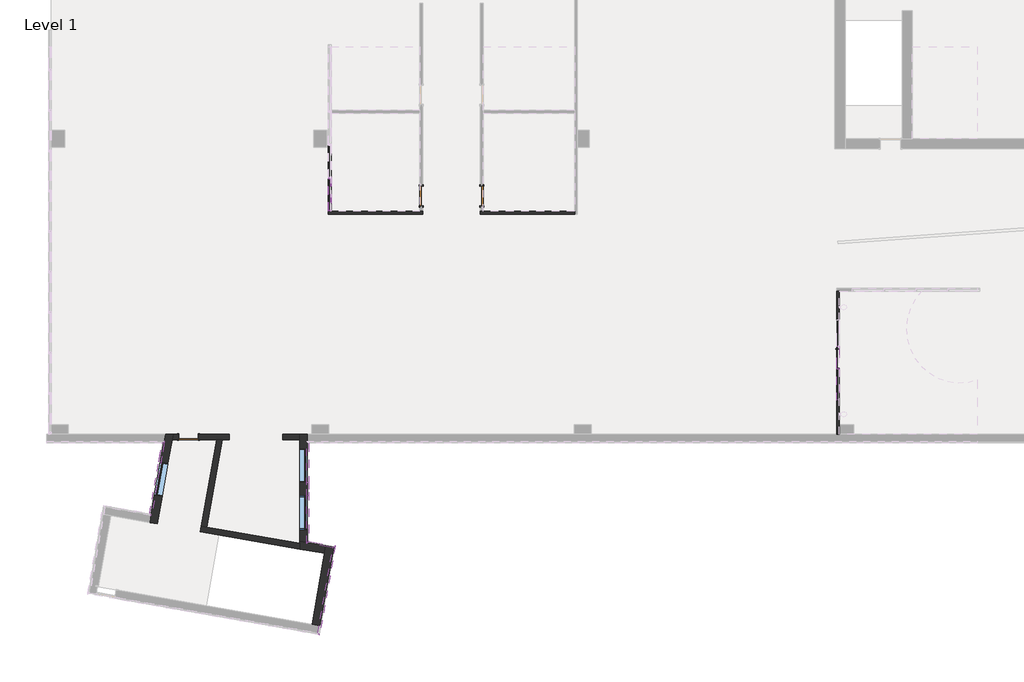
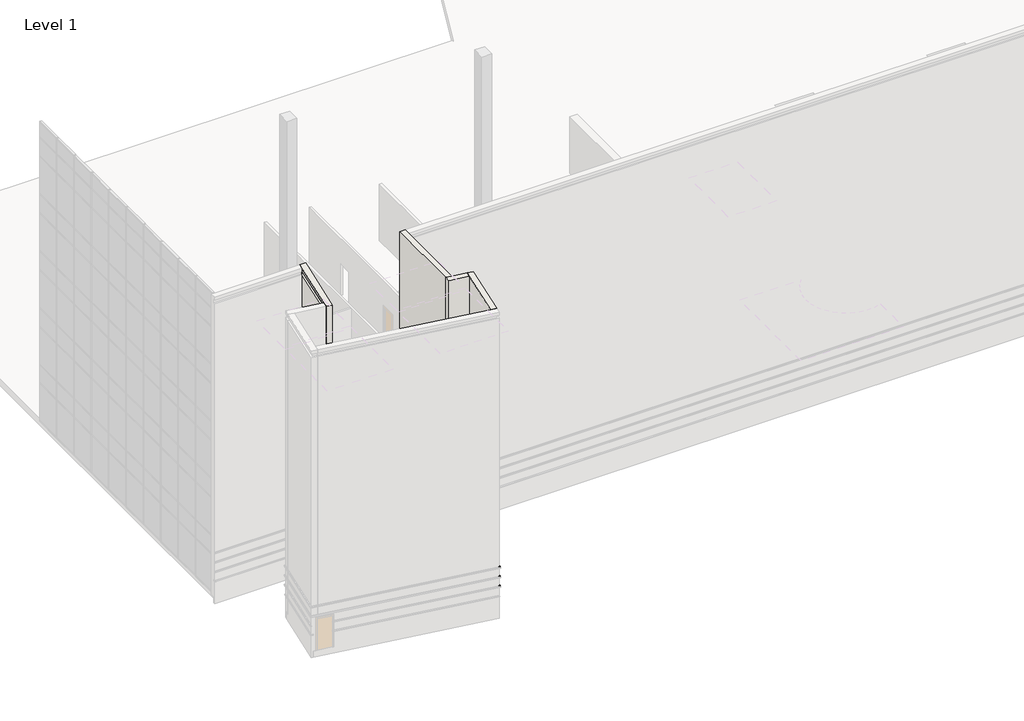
# One storey, part 5 of 23: 13 members, 12 proxies, 10 walls, 4 doors, 4 plates, 3 windows.
"""IFC4 building model written with IfcOpenShell, lengths in millimetres."""

from ifc_helpers import new_model, si_unit, frame, origin, origin_with_axes, place, context, project, spatial, polyline, outline, extrude, faceted_brep, transform, mapped, element, save
from components import curtain_wall_sgl_glass_curtain_wall_sgl_glass_ea362d66, door_ba235de4, door_82111de5, door_92889684, member_9597caa3, member_b2bde9e6, member_131a91bd, member_8e4b14e5, member_6186cc23, member_73a57e35, member_5adcf121, member_e7ed5742, member_194437a1, member_a139046c, member_8e09d03a, system_panel_glazed_f771dc8d, system_panel_glazed_1974f2ce, system_panel_glazed_aacaee84, system_panel_solid_9531ad7b, window_7a027cf8

model = new_model("IFC4")

# Units and contexts
model_context = context("Model", 3, world=origin())
ifc_project = project(units=[si_unit("LENGTHUNIT", "METRE", prefix="MILLI")], contexts=[model_context])

# Site, building, storey
site = spatial("IfcSite", under=ifc_project)
building = spatial("IfcBuilding", under=site)
storey = spatial("IfcBuildingStorey", under=building, Name="Level 1", Elevation=0.0)

# Proxies
placement = place(None, origin())
element("IfcBuildingElementProxy", 1, Name="Reveals", at=placement, inside=storey, context=model_context, shape_type="SweptSolid", body=[
    extrude(outline(polyline([(-64063.4106191, -30479.1249304), (-63972.7344453, -30495.1135863), (-64135.1020032, -31415.9457657), (-64209.7895211, -31309.2809359), (-64063.4106191, -30479.1249304)])), frame((0.0, 0.0, 1625.6), z_axis=(0.0, 0.0, 1.0), x_axis=(1.0, 0.0, 0.0)), (0.0, 0.0, 1.0), 67.7333333),
    extrude(outline(polyline([(-63652.5265095, -28148.8853492), (-63542.7957974, -28056.8103492), (-63708.0946225, -28994.2665708), (-63798.7707964, -28978.2779148), (-63652.5265095, -28148.8853492)])), frame((0.0, 0.0, 1625.6), z_axis=(0.0, 0.0, 1.0), x_axis=(1.0, 0.0, 0.0)), (0.0, 0.0, 1.0), 67.7333333),
])
element("IfcBuildingElementProxy", 2, Name="Reveals", at=placement, inside=storey, context=model_context, shape_type="SweptSolid", body=[
    extrude(outline(polyline([(-64063.4106191, -30479.1249304), (-63972.7344453, -30495.1135863), (-64135.1020032, -31415.9457657), (-64209.7895211, -31309.2809359), (-64063.4106191, -30479.1249304)])), frame((0.0, 0.0, 2235.2), z_axis=(0.0, 0.0, 1.0), x_axis=(1.0, 0.0, 0.0)), (0.0, 0.0, 1.0), 67.7333333),
    extrude(outline(polyline([(-63652.5265095, -28148.8853492), (-63542.7957974, -28056.8103492), (-63708.0946225, -28994.2665708), (-63798.7707964, -28978.2779148), (-63652.5265095, -28148.8853492)])), frame((0.0, 0.0, 2235.2), z_axis=(0.0, 0.0, 1.0), x_axis=(1.0, 0.0, 0.0)), (0.0, 0.0, 1.0), 67.7333333),
])
element("IfcBuildingElementProxy", 3, Name="Reveals", at=placement, inside=storey, context=model_context, shape_type="SweptSolid", body=[
    extrude(outline(polyline([(-63652.5265095, -28148.8853492), (-63542.7957974, -28056.8103492), (-64135.1020032, -31415.9457657), (-64209.7895211, -31309.2809359), (-63652.5265095, -28148.8853492)])), frame((0.0, 0.0, 2844.8), z_axis=(0.0, 0.0, 1.0), x_axis=(1.0, 0.0, 0.0)), (0.0, 0.0, 1.0), 67.7333333),
])
element("IfcBuildingElementProxy", 4, Name="Reveals", at=placement, inside=storey, context=model_context, shape_type="SweptSolid", body=[
    extrude(outline(polyline([(-56525.6460513, -36823.1362989), (-56600.3335692, -36716.4714691), (-55921.0913575, -32864.2974624), (-55814.4265276, -32789.6099445), (-56525.6460513, -36823.1362989)])), frame((0.0, 0.0, 1625.6), z_axis=(0.0, 0.0, 1.0), x_axis=(1.0, 0.0, 0.0)), (0.0, 0.0, 1.0), 67.7333333),
])
element("IfcBuildingElementProxy", 5, Name="Reveals", at=placement, inside=storey, context=model_context, shape_type="SweptSolid", body=[
    extrude(outline(polyline([(-56525.6460513, -36823.1362989), (-56600.3335692, -36716.4714691), (-55921.0913575, -32864.2974624), (-55814.4265276, -32789.6099445), (-56525.6460513, -36823.1362989)])), frame((0.0, 0.0, 2235.2), z_axis=(0.0, 0.0, 1.0), x_axis=(1.0, 0.0, 0.0)), (0.0, 0.0, 1.0), 67.7333333),
])
element("IfcBuildingElementProxy", 6, Name="Reveals", at=placement, inside=storey, context=model_context, shape_type="SweptSolid", body=[
    extrude(outline(polyline([(-56525.6460513, -36823.1362989), (-56600.3335692, -36716.4714691), (-55921.0913575, -32864.2974624), (-55814.4265276, -32789.6099445), (-56525.6460513, -36823.1362989)])), frame((0.0, 0.0, 2844.8), z_axis=(0.0, 0.0, 1.0), x_axis=(1.0, 0.0, 0.0)), (0.0, 0.0, 1.0), 67.7333333),
])
element("IfcBuildingElementProxy", 7, Name="Reveals", at=placement, inside=storey, context=model_context, shape_type="SweptSolid", body=[
    extrude(outline(polyline([(-55814.4265276, -32789.6099445), (-55921.0913575, -32864.2974624), (-57101.4875003, -32656.1617745), (-57009.4125003, -32578.9016759), (-55814.4265276, -32789.6099445)])), frame((0.0, 0.0, 1625.6), z_axis=(0.0, 0.0, 1.0), x_axis=(1.0, 0.0, 0.0)), (0.0, 0.0, 1.0), 67.7333333),
])
element("IfcBuildingElementProxy", 8, Name="Reveals", at=placement, inside=storey, context=model_context, shape_type="SweptSolid", body=[
    extrude(outline(polyline([(-55814.4265276, -32789.6099445), (-55921.0913575, -32864.2974624), (-57101.4875003, -32656.1617745), (-57009.4125003, -32578.9016759), (-55814.4265276, -32789.6099445)])), frame((0.0, 0.0, 2235.2), z_axis=(0.0, 0.0, 1.0), x_axis=(1.0, 0.0, 0.0)), (0.0, 0.0, 1.0), 67.7333333),
])
element("IfcBuildingElementProxy", 9, Name="Reveals", at=placement, inside=storey, context=model_context, shape_type="SweptSolid", body=[
    extrude(outline(polyline([(-55814.4265276, -32789.6099445), (-55921.0913575, -32864.2974624), (-57101.4875003, -32656.1617745), (-57009.4125003, -32578.9016759), (-55814.4265276, -32789.6099445)])), frame((0.0, 0.0, 2844.8), z_axis=(0.0, 0.0, 1.0), x_axis=(1.0, 0.0, 0.0)), (0.0, 0.0, 1.0), 67.7333333),
])
element("IfcBuildingElementProxy", 10, Name="Reveals", at=placement, inside=storey, context=model_context, shape_type="SweptSolid", body=[
    extrude(outline(polyline([(-57009.4125003, -28391.7728492), (-57101.4875003, -28391.7728492), (-57101.4875003, -28056.8103492), (-57009.4125003, -28148.8853492), (-57009.4125003, -28391.7728492)])), frame((0.0, 0.0, 1625.6), z_axis=(0.0, 0.0, 1.0), x_axis=(1.0, 0.0, 0.0)), (0.0, 0.0, 1.0), 67.7333333),
    extrude(outline(polyline([(-57009.4125003, -30525.3728492), (-57101.4875003, -30525.3728492), (-57101.4875003, -29915.7728492), (-57009.4125003, -29915.7728492), (-57009.4125003, -30525.3728492)])), frame((0.0, 0.0, 1625.6), z_axis=(0.0, 0.0, 1.0), x_axis=(1.0, 0.0, 0.0)), (0.0, 0.0, 1.0), 67.7333333),
    extrude(outline(polyline([(-57009.4125003, -32578.9016759), (-57101.4875003, -32656.1617745), (-57101.4875003, -32049.3728492), (-57009.4125003, -32049.3728492), (-57009.4125003, -32578.9016759)])), frame((0.0, 0.0, 1625.6), z_axis=(0.0, 0.0, 1.0), x_axis=(1.0, 0.0, 0.0)), (0.0, 0.0, 1.0), 67.7333333),
])
element("IfcBuildingElementProxy", 11, Name="Reveals", at=placement, inside=storey, context=model_context, shape_type="SweptSolid", body=[
    extrude(outline(polyline([(-57009.4125003, -28391.7728492), (-57101.4875003, -28391.7728492), (-57101.4875003, -28056.8103492), (-57009.4125003, -28148.8853492), (-57009.4125003, -28391.7728492)])), frame((0.0, 0.0, 2235.2), z_axis=(0.0, 0.0, 1.0), x_axis=(1.0, 0.0, 0.0)), (0.0, 0.0, 1.0), 67.7333333),
    extrude(outline(polyline([(-57009.4125003, -30525.3728492), (-57101.4875003, -30525.3728492), (-57101.4875003, -29915.7728492), (-57009.4125003, -29915.7728492), (-57009.4125003, -30525.3728492)])), frame((0.0, 0.0, 2235.2), z_axis=(0.0, 0.0, 1.0), x_axis=(1.0, 0.0, 0.0)), (0.0, 0.0, 1.0), 67.7333333),
    extrude(outline(polyline([(-57009.4125003, -32578.9016759), (-57101.4875003, -32656.1617745), (-57101.4875003, -32049.3728492), (-57009.4125003, -32049.3728492), (-57009.4125003, -32578.9016759)])), frame((0.0, 0.0, 2235.2), z_axis=(0.0, 0.0, 1.0), x_axis=(1.0, 0.0, 0.0)), (0.0, 0.0, 1.0), 67.7333333),
])
element("IfcBuildingElementProxy", 12, Name="Reveals", at=placement, inside=storey, context=model_context, shape_type="SweptSolid", body=[
    extrude(outline(polyline([(-57009.4125003, -32578.9016759), (-57101.4875003, -32656.1617745), (-57101.4875003, -28056.8103492), (-57009.4125003, -28148.8853492), (-57009.4125003, -32578.9016759)])), frame((0.0, 0.0, 2844.8), z_axis=(0.0, 0.0, 1.0), x_axis=(1.0, 0.0, 0.0)), (0.0, 0.0, 1.0), 67.7333333),
])

# Doors
curtain_wall_sgl_glass_curtain_wall_sgl_glass_shape = curtain_wall_sgl_glass_curtain_wall_sgl_glass_ea362d66(model_context)
element("IfcDoor", 13, ObjectType="Curtain Wall Sgl Glass : Curtain Wall Sgl Glass", at=placement, inside=storey, context=model_context, shape_type="MappedRepresentation", body=[
    mapped(curtain_wall_sgl_glass_curtain_wall_sgl_glass_shape, transform((-33067.7142212, -24273.7978492, -25.4), x_axis=(0.0, -1.0, 0.0), y_axis=(1.0, 0.0, 0.0), z_axis=(0.0, 0.0, 1.0))),
])
door_shape = door_ba235de4(model_context)
element("IfcDoor", 14, ObjectType="Single-Flush : 34\" x 80\"", at=placement, inside=storey, context=model_context, shape_type="MappedRepresentation", body=[
    mapped(door_shape, transform((-62457.7125003, -27856.7853492, 0.0), x_axis=(-1.0, 0.0, 0.0), y_axis=(0.0, -1.0, 0.0), z_axis=(0.0, 0.0, 1.0))),
])
door_2_shape = door_82111de5(model_context)
element("IfcDoor", 15, ObjectType="Single-Flush : 34\" x 80\"", at=placement, inside=storey, context=model_context, shape_type="MappedRepresentation", body=[
    mapped(door_2_shape, transform((-51923.5856498, -16957.0103492, 0.0), x_axis=(0.0, -1.0, 0.0), y_axis=(1.0, 0.0, 0.0), z_axis=(0.0, 0.0, 1.0))),
])
door_3_shape = door_92889684(model_context)
element("IfcDoor", 16, ObjectType="Single-Flush : 34\" x 80\"", at=placement, inside=storey, context=model_context, shape_type="MappedRepresentation", body=[
    mapped(door_3_shape, transform((-49194.8999355, -16957.0103492, 0.0), x_axis=(0.0, -1.0, 0.0), y_axis=(1.0, 0.0, 0.0), z_axis=(0.0, 0.0, 1.0))),
])

# Members
member_shape = member_9597caa3(model_context)
element("IfcMember", 17, ObjectType="Rectangular Mullion : 2.5\" x 5\" rectangular", at=placement, inside=storey, context=model_context, shape_type="MappedRepresentation", body=[
    mapped(member_shape, transform((-56063.7856498, -16145.6214603, 38.1), x_axis=(0.0, 1.0, 0.0), y_axis=(1.0, 0.0, 0.0), z_axis=(0.0, 0.0, -1.0))),
])
member_2_shape = member_b2bde9e6(model_context)
element("IfcMember", 18, ObjectType="Rectangular Mullion : 2.5\" x 5\" rectangular", at=placement, inside=storey, context=model_context, shape_type="MappedRepresentation", body=[
    mapped(member_2_shape, transform((-56063.7856498, -17655.5103492, 2413.0), x_axis=(0.0, -1.0, 0.0), y_axis=(1.0, 0.0, 0.0), z_axis=(0.0, 0.0, 1.0))),
])
member_3_shape = member_131a91bd(model_context)
element("IfcMember", 19, ObjectType="Rectangular Mullion : 2.5\" x 5\" rectangular", at=placement, inside=storey, context=model_context, shape_type="MappedRepresentation", body=[
    mapped(member_3_shape, transform((-56063.7856498, -16145.6214603, 4673.6), x_axis=(0.0, 0.0, 1.0), y_axis=(1.0, 0.0, 0.0), z_axis=(0.0, 1.0, 0.0))),
])
element("IfcMember", 20, ObjectType="Rectangular Mullion : 2.5\" x 5\" rectangular", at=placement, inside=storey, context=model_context, shape_type="MappedRepresentation", body=[
    mapped(member_3_shape, transform((-56063.7856498, -17655.5103492, -25.4), x_axis=(0.0, 0.0, -1.0), y_axis=(1.0, 0.0, 0.0), z_axis=(0.0, -1.0, 0.0))),
])
element("IfcMember", 21, ObjectType="Rectangular Mullion : 2.5\" x 5\" rectangular", at=placement, inside=storey, context=model_context, shape_type="MappedRepresentation", body=[
    mapped(member_3_shape, transform((-56063.7856498, -16145.6214603, -25.4), x_axis=(0.0, 0.0, -1.0), y_axis=(1.0, 0.0, 0.0), z_axis=(0.0, -1.0, 0.0))),
])
member_4_shape = member_8e4b14e5(model_context)
element("IfcMember", 22, ObjectType="Rectangular Mullion : 2.5\" x 5\" rectangular", at=placement, inside=storey, context=model_context, shape_type="MappedRepresentation", body=[
    mapped(member_4_shape, transform((-56063.7856498, -16145.6214603, 2413.0), x_axis=(0.0, 0.0, 1.0), y_axis=(1.0, 0.0, 0.0), z_axis=(0.0, 1.0, 0.0))),
])
member_5_shape = member_6186cc23(model_context)
element("IfcMember", 23, ObjectType="Rectangular Mullion : 2.5\" x 5\" rectangular", at=placement, inside=storey, context=model_context, shape_type="MappedRepresentation", body=[
    mapped(member_5_shape, transform((-56063.7856498, -16145.6214603, 2444.75), x_axis=(0.0, 1.0, 0.0), y_axis=(1.0, 0.0, 0.0), z_axis=(0.0, 0.0, -1.0))),
])
member_6_shape = member_73a57e35(model_context)
element("IfcMember", 24, ObjectType="Rectangular Mullion : 2.5\" x 5\" rectangular", at=placement, inside=storey, context=model_context, shape_type="MappedRepresentation", body=[
    mapped(member_6_shape, transform((-56063.7856498, -17655.5103492, 4610.1), x_axis=(0.0, -1.0, 0.0), y_axis=(1.0, 0.0, 0.0), z_axis=(0.0, 0.0, 1.0))),
])
member_7_shape = member_5adcf121(model_context)
element("IfcMember", 25, ObjectType="Rectangular Mullion : 2.5\" x 5\" rectangular", at=placement, inside=storey, context=model_context, shape_type="MappedRepresentation", body=[
    mapped(member_7_shape, transform((-33067.7142212, -24781.7978492, 38.1), x_axis=(0.0, 1.0, 0.0), y_axis=(1.0, 0.0, 0.0), z_axis=(0.0, 0.0, -1.0))),
])
member_8_shape = member_e7ed5742(model_context)
element("IfcMember", 26, ObjectType="Rectangular Mullion : 2.5\" x 5\" rectangular", at=placement, inside=storey, context=model_context, shape_type="MappedRepresentation", body=[
    mapped(member_8_shape, transform((-33067.7142212, -26204.1978492, 2349.5), x_axis=(0.0, -1.0, 0.0), y_axis=(1.0, 0.0, 0.0), z_axis=(0.0, 0.0, 1.0))),
])
member_9_shape = member_194437a1(model_context)
element("IfcMember", 27, ObjectType="Rectangular Mullion : 2.5\" x 5\" rectangular", at=placement, inside=storey, context=model_context, shape_type="MappedRepresentation", body=[
    mapped(member_9_shape, transform((-33067.7142212, -24781.7978492, 2413.0), x_axis=(0.0, 0.0, 1.0), y_axis=(1.0, 0.0, 0.0), z_axis=(0.0, 1.0, 0.0))),
])
member_10_shape = member_a139046c(model_context)
element("IfcMember", 28, ObjectType="Rectangular Mullion : 2.5\" x 5\" rectangular", at=placement, inside=storey, context=model_context, shape_type="MappedRepresentation", body=[
    mapped(member_10_shape, transform((-33067.7142212, -26204.1978492, -25.4), x_axis=(0.0, 0.0, -1.0), y_axis=(1.0, 0.0, 0.0), z_axis=(0.0, -1.0, 0.0))),
])
member_11_shape = member_8e09d03a(model_context)
element("IfcMember", 29, ObjectType="Rectangular Mullion : 2.5\" x 5\" rectangular", at=placement, inside=storey, context=model_context, shape_type="MappedRepresentation", body=[
    mapped(member_11_shape, transform((-33067.7142212, -23765.7978492, 2413.0), x_axis=(0.0, 0.0, 1.0), y_axis=(1.0, 0.0, 0.0), z_axis=(0.0, 1.0, 0.0))),
])

# Plates
system_panel_glazed_shape = system_panel_glazed_f771dc8d(model_context)
element("IfcPlate", 30, ObjectType="System Panel : Glazed", at=placement, inside=storey, context=model_context, shape_type="MappedRepresentation", body=[
    mapped(system_panel_glazed_shape, transform((-56063.7856498, -16884.6909048, 38.1), x_axis=(0.0, 1.0, 0.0), y_axis=(-1.0, 0.0, 0.0), z_axis=(0.0, 0.0, 1.0))),
])
system_panel_glazed_2_shape = system_panel_glazed_1974f2ce(model_context)
element("IfcPlate", 31, ObjectType="System Panel : Glazed", at=placement, inside=storey, context=model_context, shape_type="MappedRepresentation", body=[
    mapped(system_panel_glazed_2_shape, transform((-33067.7142212, -23172.0728492, 38.1), x_axis=(0.0, 1.0, 0.0), y_axis=(-1.0, 0.0, 0.0), z_axis=(0.0, 0.0, 1.0))),
])
system_panel_glazed_3_shape = system_panel_glazed_aacaee84(model_context)
element("IfcPlate", 32, ObjectType="System Panel : Glazed", at=placement, inside=storey, context=model_context, shape_type="MappedRepresentation", body=[
    mapped(system_panel_glazed_3_shape, transform((-33067.7142212, -25477.1228492, 38.1), x_axis=(0.0, 1.0, 0.0), y_axis=(-1.0, 0.0, 0.0), z_axis=(0.0, 0.0, 1.0))),
])
system_panel_solid_shape = system_panel_solid_9531ad7b(model_context)
element("IfcPlate", 33, ObjectType="System Panel : Solid", at=placement, inside=storey, context=model_context, shape_type="MappedRepresentation", body=[
    mapped(system_panel_solid_shape, transform((-56063.7856498, -16884.6909048, 2444.75), x_axis=(0.0, 1.0, 0.0), y_axis=(-1.0, 0.0, 0.0), z_axis=(0.0, 0.0, 1.0))),
])

# Walls
element("IfcWall", 34, ObjectType="Core-shaft 10\" Concrete", at=placement, inside=storey, context=model_context, shape_type="Brep", body=[
    faceted_brep([(-62889.5125003, -27729.7853492, 2032.0), (-62889.5125003, -27729.7853492, 0.0), (-63153.0625788, -27729.7853492, 0.0), (-63153.0625788, -27729.7853492, 3657.6), (-57428.5125003, -27729.7853492, 3657.6), (-57428.5125003, -27729.7853492, 0.0), (-58182.8685961, -27729.7853492, 0.0), (-58182.8685961, -27729.7853492, 2438.4), (-60621.2685961, -27729.7853492, 2438.4), (-60621.2685961, -27729.7853492, 0.0), (-62025.9125003, -27729.7853492, 0.0), (-62025.9125003, -27729.7853492, 2032.0), (-63197.8496319, -27983.7853492, 0.0), (-62889.5125003, -27983.7853492, 0.0), (-62889.5125003, -27983.7853492, 2032.0), (-62025.9125003, -27983.7853492, 2032.0), (-62025.9125003, -27983.7853492, 0.0), (-61184.4744387, -27983.7853492, 0.0), (-60926.5560793, -27983.7853492, 0.0), (-60621.2685961, -27983.7853492, 0.0), (-60621.2685961, -27983.7853492, 2438.4), (-58182.8685961, -27983.7853492, 2438.4), (-58182.8685961, -27983.7853492, 0.0), (-57428.5125003, -27983.7853492, 0.0), (-57428.5125003, -27983.7853492, 3657.6), (-60926.5560793, -27983.7853492, 3657.6), (-61184.4744387, -27983.7853492, 3657.6), (-63197.8496319, -27983.7853492, 3657.6)], [[[0, 1, 2, 3, 4, 5, 6, 7, 8, 9, 10, 11]], [[12, 13, 14, 15, 16, 17, 18, 19, 20, 21, 22, 23, 24, 25, 26, 27]], [[5, 23, 22, 6]], [[10, 9, 19, 18, 17, 16]], [[2, 1, 13, 12]], [[4, 3, 27, 26, 25, 24]], [[3, 2, 12, 27]], [[5, 4, 24, 23]], [[14, 13, 1, 0]], [[15, 14, 0, 11]], [[16, 15, 11, 10]], [[7, 21, 20, 8]], [[21, 7, 6, 22]], [[8, 20, 19, 9]]]),
])
element("IfcWall", 35, ObjectType="Core-shaft 10\" Concrete", at=placement, inside=storey, context=model_context, shape_type="Brep", body=[
    faceted_brep([(-61917.1680405, -32139.0972525, 0.0), (-57428.5125003, -32930.5683313, 0.0), (-57428.5125003, -32930.5683313, 3657.6), (-61917.1680405, -32139.0972525, 3657.6), (-61873.0614034, -31888.9560832, 0.0), (-61873.0614034, -31888.9560832, 3657.6), (-61622.9202341, -31933.0627204, 3657.6), (-57428.5125003, -32672.6499719, 3657.6), (-57428.5125003, -32672.6499719, 0.0), (-61622.9202341, -31933.0627204, 0.0)], [[[0, 1, 2, 3]], [[4, 5, 6, 7, 8, 9]], [[1, 0, 4, 9, 8]], [[3, 2, 7, 6, 5]], [[0, 3, 5, 4]], [[2, 1, 8, 7]]]),
])
element("IfcWall", 36, ObjectType="Core-shaft 10\" Concrete", at=placement, inside=storey, context=model_context, shape_type="SweptSolid", body=[
    extrude(outline(polyline([(-60926.5560793, -27983.7853492), (-61622.9202341, -31933.0627204), (-61873.0614034, -31888.9560832), (-61184.4744387, -27983.7853492), (-60926.5560793, -27983.7853492)])), origin_with_axes(), (0.0, 0.0, 1.0), 3657.6),
])
element("IfcWall", 37, ObjectType="Exterior - Brick and CMU on MTL. Stud", at=placement, inside=storey, context=model_context, shape_type="Brep", body=[
    faceted_brep([(-64216.9034154, -31733.5918574, 19304.0), (-64155.7054564, -31386.5209851, 19304.0), (-63573.0663387, -28082.2103492, 19304.0), (-63510.9243025, -27729.7853492, 19304.0), (-63510.9243025, -27729.7853492, 0.0), (-63556.8310319, -27990.1353492, 0.0), (-63556.8310319, -27990.1353492, -406.4), (-63573.0663387, -28082.2103492, -406.4), (-64155.7054564, -31386.5209851, -406.4), (-64171.6941124, -31477.1971589, -406.4), (-64171.6941124, -31477.1971589, 0.0), (-64216.9034154, -31733.5918574, 0.0), (-63997.7485622, -30490.7029226, 914.4), (-63733.1087394, -28989.855907, 914.4), (-63733.1087394, -28989.855907, 1016.0), (-63573.0663387, -28082.2103492, 1016.0), (-63556.8310319, -27990.1353492, 1016.0), (-63556.8310319, -27990.1353492, 1085.85), (-63573.0663387, -28082.2103492, 1085.85), (-63733.1087394, -28989.855907, 1085.85), (-63733.1087394, -28989.855907, 1625.6), (-63573.0663387, -28082.2103492, 1625.6), (-63568.5876334, -28056.8103492, 1625.6), (-63568.5876334, -28056.8103492, 1693.3333333), (-63573.0663387, -28082.2103492, 1693.3333333), (-63733.1087394, -28989.855907, 1693.3333333), (-63733.1087394, -28989.855907, 2235.2), (-63573.0663387, -28082.2103492, 2235.2), (-63568.5876334, -28056.8103492, 2235.2), (-63568.5876334, -28056.8103492, 2302.9333333), (-63573.0663387, -28082.2103492, 2302.9333333), (-63733.1087394, -28989.855907, 2302.9333333), (-63733.1087394, -28989.855907, 2286.0), (-63997.7485622, -30490.7029226, 2286.0), (-63997.7485622, -30490.7029226, 2302.9333333), (-64155.7054564, -31386.5209851, 2302.9333333), (-64160.1161201, -31411.535102, 2302.9333333), (-64160.1161201, -31411.535102, 2235.2), (-64155.7054564, -31386.5209851, 2235.2), (-63997.7485622, -30490.7029226, 2235.2), (-63997.7485622, -30490.7029226, 1693.3333333), (-64155.7054564, -31386.5209851, 1693.3333333), (-64160.1161201, -31411.535102, 1693.3333333), (-64160.1161201, -31411.535102, 1625.6), (-64155.7054564, -31386.5209851, 1625.6), (-63997.7485622, -30490.7029226, 1625.6), (-63997.7485622, -30490.7029226, 1085.85), (-64155.7054564, -31386.5209851, 1085.85), (-64171.6941124, -31477.1971589, 1085.85), (-64171.6941124, -31477.1971589, 1016.0), (-64155.7054564, -31386.5209851, 1016.0), (-63997.7485622, -30490.7029226, 1016.0), (-64160.1161201, -31411.535102, 2912.5333333), (-64160.1161201, -31411.535102, 2844.8), (-64155.7054564, -31386.5209851, 2844.8), (-63573.0663387, -28082.2103492, 2844.8), (-63568.5876334, -28056.8103492, 2844.8), (-63568.5876334, -28056.8103492, 2912.5333333), (-63573.0663387, -28082.2103492, 2912.5333333), (-64155.7054564, -31386.5209851, 2912.5333333), (-64171.6941124, -31477.1971589, 19100.8), (-64171.6941124, -31477.1971589, 18897.6), (-64155.7054564, -31386.5209851, 18897.6), (-63573.0663387, -28082.2103492, 18897.6), (-63556.8310319, -27990.1353492, 18897.6), (-63556.8310319, -27990.1353492, 19100.8), (-63573.0663387, -28082.2103492, 19100.8), (-64155.7054564, -31386.5209851, 19100.8), (-63869.8325431, -31794.7898164, 0.0), (-63197.8496319, -27983.7853492, 0.0), (-63153.0625788, -27729.7853492, 0.0), (-63153.0625788, -27729.7853492, 3657.6), (-63153.0625788, -27729.7853492, 19304.0), (-63869.8325431, -31794.7898164, 19304.0), (-63386.0378671, -29051.0538661, 2286.0), (-63386.0378671, -29051.0538661, 914.4), (-63650.6776898, -30551.9008816, 914.4), (-63650.6776898, -30551.9008816, 2286.0), (-63708.0946225, -28994.2665708, 2286.0), (-63708.0946225, -28994.2665708, 2235.2), (-63708.0946225, -28994.2665708, 1693.3333333), (-63708.0946225, -28994.2665708, 1625.6), (-63642.4325656, -29005.844563, 1085.85), (-63642.4325656, -29005.844563, 1016.0), (-63907.0723883, -30506.6915786, 1016.0), (-63907.0723883, -30506.6915786, 1085.85), (-63972.7344453, -30495.1135863, 1625.6), (-63972.7344453, -30495.1135863, 1693.3333333), (-63972.7344453, -30495.1135863, 2235.2), (-63972.7344453, -30495.1135863, 2286.0), (-64081.0179385, -31493.1858149, 0.0), (-63463.3356266, -27990.1353492, 0.0), (-64135.1020032, -31415.9457657, 1693.3333333), (-64135.1020032, -31415.9457657, 1625.6), (-63542.7957974, -28056.8103492, 1693.3333333), (-63542.7957974, -28056.8103492, 1625.6), (-63972.7344453, -30495.1135863, 2302.9333333), (-64135.1020032, -31415.9457657, 2302.9333333), (-64135.1020032, -31415.9457657, 2235.2), (-63542.7957974, -28056.8103492, 2302.9333333), (-63542.7957974, -28056.8103492, 2235.2), (-63708.0946225, -28994.2665708, 2302.9333333), (-63542.7957974, -28056.8103492, 2912.5333333), (-63542.7957974, -28056.8103492, 2844.8), (-64135.1020032, -31415.9457657, 2844.8), (-64135.1020032, -31415.9457657, 2912.5333333), (-64081.0179385, -31493.1858149, 1085.85), (-64081.0179385, -31493.1858149, 1016.0), (-63463.3356266, -27990.1353492, 1085.85), (-63463.3356266, -27990.1353492, 1016.0), (-64081.0179385, -31493.1858149, 19100.8), (-63463.3356266, -27990.1353492, 19100.8), (-63463.3356266, -27990.1353492, 18897.6), (-64081.0179385, -31493.1858149, 18897.6), (-64081.0179385, -31493.1858149, -406.4), (-63463.3356266, -27990.1353492, -406.4)], [[[0, 1, 2, 3, 4, 5, 6, 7, 8, 9, 10, 11], [12, 13, 14, 15, 16, 17, 18, 19, 20, 21, 22, 23, 24, 25, 26, 27, 28, 29, 30, 31, 32, 33, 34, 35, 36, 37, 38, 39, 40, 41, 42, 43, 44, 45, 46, 47, 48, 49, 50, 51], [52, 53, 54, 55, 56, 57, 58, 59], [60, 61, 62, 63, 64, 65, 66, 67]], [[68, 69, 70, 71, 72, 73], [74, 75, 76, 77]], [[3, 2, 1, 0, 73, 72]], [[68, 73, 0, 11]], [[75, 74, 78, 79, 26, 25, 80, 81, 20, 19, 82, 83, 14, 13]], [[76, 75, 13, 12]], [[77, 76, 12, 51, 84, 85, 46, 45, 86, 87, 40, 39, 88, 89]], [[74, 77, 89, 33, 32, 78]], [[70, 69, 68, 11, 10, 90, 91, 5, 4]], [[87, 92, 42, 41, 40]], [[93, 86, 45, 44, 43]], [[92, 87, 86, 93]], [[94, 95, 81, 80]], [[96, 34, 33, 89]], [[34, 96, 97, 36, 35]], [[98, 88, 39, 38, 37]], [[97, 96, 89, 88, 98]], [[99, 100, 79, 78, 101]], [[102, 103, 104, 105]], [[105, 104, 53, 52]], [[85, 106, 48, 47, 46]], [[107, 84, 51, 50, 49]], [[106, 85, 84, 107]], [[108, 109, 83, 82]], [[110, 111, 112, 113]], [[110, 113, 61, 60]], [[31, 101, 78, 32]], [[90, 114, 115, 91]], [[114, 9, 8, 7, 6, 115]], [[92, 93, 43, 42]], [[95, 94, 23, 22]], [[81, 95, 22, 21, 20]], [[94, 80, 25, 24, 23]], [[97, 98, 37, 36]], [[100, 99, 29, 28]], [[79, 100, 28, 27, 26]], [[101, 31, 30, 29, 99]], [[103, 102, 57, 56]], [[104, 103, 56, 55, 54, 53]], [[102, 105, 52, 59, 58, 57]], [[106, 107, 49, 48]], [[109, 108, 17, 16]], [[83, 109, 16, 15, 14]], [[108, 82, 19, 18, 17]], [[111, 110, 60, 67, 66, 65]], [[112, 111, 65, 64]], [[113, 112, 64, 63, 62, 61]], [[3, 72, 71, 70, 4]], [[90, 10, 9, 114]], [[5, 91, 115, 6]]]),
])
element("IfcWall", 38, ObjectType="Exterior - Brick and CMU on MTL. Stud", at=placement, inside=storey, context=model_context, shape_type="Brep", body=[
    faceted_brep([(-55891.6665768, -32843.6940092, 19304.0), (-56518.532157, -36398.8253773, 19304.0), (-56518.532157, -36398.8253773, 19100.8), (-55891.6665768, -32843.6940092, 19100.8), (-56518.532157, -36398.8253773, 1693.3333333), (-55891.6665768, -32843.6940092, 1693.3333333), (-55891.6665768, -32843.6940092, 2235.2), (-56518.532157, -36398.8253773, 2235.2), (-55891.6665768, -32843.6940092, 1625.6), (-56518.532157, -36398.8253773, 1625.6), (-56518.532157, -36398.8253773, 1085.85), (-55891.6665768, -32843.6940092, 1085.85), (-56518.532157, -36398.8253773, 2302.9333333), (-55891.6665768, -32843.6940092, 2302.9333333), (-55891.6665768, -32843.6940092, 2844.8), (-56518.532157, -36398.8253773, 2844.8), (-56518.532157, -36398.8253773, 2912.5333333), (-55891.6665768, -32843.6940092, 2912.5333333), (-55891.6665768, -32843.6940092, 18897.6), (-56518.532157, -36398.8253773, 18897.6), (-55891.6665768, -32843.6940092, -406.4), (-55891.6665768, -32843.6940092, 1016.0), (-56518.532157, -36398.8253773, 1016.0), (-56518.532157, -36398.8253773, 0.0), (-56563.74146, -36655.2200758, 0.0), (-56563.74146, -36655.2200758, -406.4), (-56238.7374492, -32782.4960501, 0.0), (-56299.9354082, -33129.5669225, 0.0), (-56865.6030293, -36337.6274183, 0.0), (-56865.6030293, -36337.6274183, 19304.0), (-56299.9354082, -33129.5669225, 19304.0), (-56238.7374492, -32782.4960501, 19304.0), (-56238.7374492, -32782.4960501, 19100.8), (-56254.7261051, -32873.172224, 19100.8), (-56254.7261051, -32873.172224, 18897.6), (-56238.7374492, -32782.4960501, 18897.6), (-56238.7374492, -32782.4960501, 2912.5333333), (-56243.1481129, -32807.5101671, 2912.5333333), (-56243.1481129, -32807.5101671, 2844.8), (-56238.7374492, -32782.4960501, 2844.8), (-56238.7374492, -32782.4960501, 2302.9333333), (-56243.1481129, -32807.5101671, 2302.9333333), (-56243.1481129, -32807.5101671, 2235.2), (-56238.7374492, -32782.4960501, 2235.2), (-56238.7374492, -32782.4960501, 1693.3333333), (-56243.1481129, -32807.5101671, 1693.3333333), (-56243.1481129, -32807.5101671, 1625.6), (-56238.7374492, -32782.4960501, 1625.6), (-56238.7374492, -32782.4960501, 1085.85), (-56254.7261051, -32873.172224, 1085.85), (-56254.7261051, -32873.172224, 1016.0), (-56238.7374492, -32782.4960501, 1016.0), (-56609.2083309, -36382.8367214, 0.0), (-56609.2083309, -36382.8367214, 1016.0), (-56609.2083309, -36382.8367214, 1085.85), (-56543.5462739, -36394.4147136, 1625.6), (-56543.5462739, -36394.4147136, 1693.3333333), (-56543.5462739, -36394.4147136, 2235.2), (-56543.5462739, -36394.4147136, 2302.9333333), (-56543.5462739, -36394.4147136, 2844.8), (-56543.5462739, -36394.4147136, 2912.5333333), (-56609.2083309, -36382.8367214, 18897.6), (-56609.2083309, -36382.8367214, 19100.8), (-55982.3427507, -32827.7053532, 0.0), (-55982.3427507, -32827.7053532, -406.4), (-55998.3314066, -32918.3815271, 0.0), (-55921.0913575, -32864.2974624, 1693.3333333), (-55921.0913575, -32864.2974624, 1625.6), (-55921.0913575, -32864.2974624, 2302.9333333), (-55921.0913575, -32864.2974624, 2235.2), (-55921.0913575, -32864.2974624, 2912.5333333), (-55921.0913575, -32864.2974624, 2844.8), (-55998.3314066, -32918.3815271, 1085.85), (-55998.3314066, -32918.3815271, 1016.0), (-55998.3314066, -32918.3815271, 18897.6), (-55998.3314066, -32918.3815271, 19100.8), (-55998.3314066, -32918.3815271, -406.4), (-56654.4176339, -36639.2314199, -406.4), (-56654.4176339, -36639.2314199, 0.0)], [[[0, 1, 2, 3]], [[4, 5, 6, 7]], [[8, 9, 10, 11]], [[12, 13, 14, 15]], [[16, 17, 18, 19]], [[20, 21, 22, 23, 24, 25]], [[26, 27, 28, 29, 30, 31, 32, 33, 34, 35, 36, 37, 38, 39, 40, 41, 42, 43, 44, 45, 46, 47, 48, 49, 50, 51]], [[1, 0, 31, 30, 29]], [[1, 29, 28, 52, 23, 22, 53, 54, 10, 9, 55, 56, 4, 7, 57, 58, 12, 15, 59, 60, 16, 19, 61, 62, 2]], [[31, 0, 3, 32]], [[5, 44, 43, 6]], [[47, 8, 11, 48]], [[13, 40, 39, 14]], [[17, 36, 35, 18]], [[63, 26, 51, 21, 20, 64]], [[28, 27, 26, 63, 65, 52]], [[45, 44, 5, 4, 56, 66]], [[47, 46, 67, 55, 9, 8]], [[67, 66, 56, 55]], [[66, 67, 46, 45]], [[41, 40, 13, 12, 58, 68]], [[43, 42, 69, 57, 7, 6]], [[69, 68, 58, 57]], [[68, 69, 42, 41]], [[37, 36, 17, 16, 60, 70]], [[39, 38, 71, 59, 15, 14]], [[71, 70, 60, 59]], [[70, 71, 38, 37]], [[49, 48, 11, 10, 54, 72]], [[51, 50, 73, 53, 22, 21]], [[73, 72, 54, 53]], [[72, 73, 50, 49]], [[34, 74, 61, 19, 18, 35]], [[62, 75, 33, 32, 3, 2]], [[74, 75, 62, 61]], [[75, 74, 34, 33]], [[52, 65, 63, 64, 76, 77, 78]], [[64, 20, 25, 77, 76]], [[24, 23, 52, 78]], [[77, 25, 24, 78]]]),
])
element("IfcWall", 39, ObjectType="Exterior - Brick and CMU on MTL. Stud", at=placement, inside=storey, context=model_context, shape_type="Brep", body=[
    faceted_brep([(-57428.5125003, -32572.7066077, 19304.0), (-57076.0875003, -32634.8486438, 19304.0), (-56238.7374492, -32782.4960501, 19304.0), (-56238.7374492, -32782.4960501, 19100.8), (-57076.0875003, -32634.8486438, 19100.8), (-57168.1625003, -32618.6133371, 19100.8), (-57168.1625003, -32618.6133371, 18897.6), (-57076.0875003, -32634.8486438, 18897.6), (-56238.7374492, -32782.4960501, 18897.6), (-56238.7374492, -32782.4960501, 2912.5333333), (-57076.0875003, -32634.8486438, 2912.5333333), (-57101.4875003, -32630.3699385, 2912.5333333), (-57101.4875003, -32630.3699385, 2844.8), (-57076.0875003, -32634.8486438, 2844.8), (-56238.7374492, -32782.4960501, 2844.8), (-56238.7374492, -32782.4960501, 2302.9333333), (-57076.0875003, -32634.8486438, 2302.9333333), (-57101.4875003, -32630.3699385, 2302.9333333), (-57101.4875003, -32630.3699385, 2235.2), (-57076.0875003, -32634.8486438, 2235.2), (-56238.7374492, -32782.4960501, 2235.2), (-56238.7374492, -32782.4960501, 1693.3333333), (-57076.0875003, -32634.8486438, 1693.3333333), (-57101.4875003, -32630.3699385, 1693.3333333), (-57101.4875003, -32630.3699385, 1625.6), (-57076.0875003, -32634.8486438, 1625.6), (-56238.7374492, -32782.4960501, 1625.6), (-56238.7374492, -32782.4960501, 1085.85), (-57076.0875003, -32634.8486438, 1085.85), (-57168.1625003, -32618.6133371, 1085.85), (-57168.1625003, -32618.6133371, 1016.0), (-57076.0875003, -32634.8486438, 1016.0), (-56238.7374492, -32782.4960501, 1016.0), (-56238.7374492, -32782.4960501, 0.0), (-55982.3427507, -32827.7053532, 0.0), (-55982.3427507, -32827.7053532, -406.4), (-57076.0875003, -32634.8486438, -406.4), (-57168.1625003, -32618.6133371, -406.4), (-57168.1625003, -32618.6133371, 0.0), (-57428.5125003, -32572.7066077, 0.0), (-57428.5125003, -32930.5683313, 0.0), (-56299.9354082, -33129.5669225, 0.0), (-56299.9354082, -33129.5669225, 19304.0), (-57428.5125003, -32930.5683313, 19304.0), (-56254.7261051, -32873.172224, 0.0), (-56254.7261051, -32873.172224, 1016.0), (-56254.7261051, -32873.172224, 1085.85), (-56243.1481129, -32807.5101671, 1625.6), (-56243.1481129, -32807.5101671, 1693.3333333), (-56243.1481129, -32807.5101671, 2235.2), (-56243.1481129, -32807.5101671, 2302.9333333), (-56243.1481129, -32807.5101671, 2844.8), (-56243.1481129, -32807.5101671, 2912.5333333), (-56254.7261051, -32873.172224, 18897.6), (-56254.7261051, -32873.172224, 19100.8), (-57428.5125003, -32672.6499719, 0.0), (-57168.1625003, -32712.1087424, 0.0), (-57101.4875003, -32656.1617745, 1693.3333333), (-57101.4875003, -32656.1617745, 1625.6), (-57101.4875003, -32656.1617745, 2302.9333333), (-57101.4875003, -32656.1617745, 2235.2), (-57101.4875003, -32656.1617745, 2912.5333333), (-57101.4875003, -32656.1617745, 2844.8), (-57168.1625003, -32712.1087424, 1085.85), (-57168.1625003, -32712.1087424, 1016.0), (-57168.1625003, -32712.1087424, 18897.6), (-57168.1625003, -32712.1087424, 19100.8), (-57168.1625003, -32712.1087424, -406.4), (-55998.3314066, -32918.3815271, -406.4), (-55998.3314066, -32918.3815271, 0.0)], [[[0, 1, 2, 3, 4, 5, 6, 7, 8, 9, 10, 11, 12, 13, 14, 15, 16, 17, 18, 19, 20, 21, 22, 23, 24, 25, 26, 27, 28, 29, 30, 31, 32, 33, 34, 35, 36, 37, 38, 39]], [[40, 41, 42, 43]], [[2, 1, 0, 43, 42]], [[2, 42, 41, 44, 33, 32, 45, 46, 27, 26, 47, 48, 21, 20, 49, 50, 15, 14, 51, 52, 9, 8, 53, 54, 3]], [[41, 40, 55, 39, 38, 56, 44]], [[21, 48, 57, 23, 22]], [[47, 26, 25, 24, 58]], [[58, 57, 48, 47]], [[15, 50, 59, 17, 16]], [[49, 20, 19, 18, 60]], [[60, 59, 50, 49]], [[11, 10, 9, 52, 61]], [[14, 13, 12, 62, 51]], [[62, 61, 52, 51]], [[61, 62, 12, 11]], [[27, 46, 63, 29, 28]], [[45, 32, 31, 30, 64]], [[64, 63, 46, 45]], [[6, 65, 53, 8, 7]], [[54, 66, 5, 4, 3]], [[65, 66, 54, 53]], [[66, 65, 6, 5]], [[44, 56, 67, 68, 69]], [[67, 37, 36, 35, 68]], [[57, 58, 24, 23]], [[59, 60, 18, 17]], [[63, 64, 30, 29]], [[43, 0, 39, 55, 40]], [[56, 38, 37, 67]], [[34, 33, 44, 69]], [[68, 35, 34, 69]]]),
])
element("IfcWall", 40, ObjectType="Exterior - Brick and CMU on MTL. Stud", at=placement, inside=storey, context=model_context, shape_type="Brep", body=[
    faceted_brep([(-57076.0875003, -27729.7853492, 19304.0), (-57076.0875003, -28082.2103492, 19304.0), (-57076.0875003, -32634.8486438, 19304.0), (-57076.0875003, -32634.8486438, 19100.8), (-57076.0875003, -28082.2103492, 19100.8), (-57076.0875003, -27990.1353492, 19100.8), (-57076.0875003, -27990.1353492, 18897.6), (-57076.0875003, -28082.2103492, 18897.6), (-57076.0875003, -32634.8486438, 18897.6), (-57076.0875003, -32634.8486438, 2912.5333333), (-57076.0875003, -28082.2103492, 2912.5333333), (-57076.0875003, -28056.8103492, 2912.5333333), (-57076.0875003, -28056.8103492, 2844.8), (-57076.0875003, -28082.2103492, 2844.8), (-57076.0875003, -32634.8486438, 2844.8), (-57076.0875003, -32634.8486438, 2302.9333333), (-57076.0875003, -32049.3728492, 2302.9333333), (-57076.0875003, -32049.3728492, 2286.0), (-57076.0875003, -30525.3728492, 2286.0), (-57076.0875003, -30525.3728492, 2302.9333333), (-57076.0875003, -29915.7728492, 2302.9333333), (-57076.0875003, -29915.7728492, 2286.0), (-57076.0875003, -28391.7728492, 2286.0), (-57076.0875003, -28391.7728492, 2302.9333333), (-57076.0875003, -28082.2103492, 2302.9333333), (-57076.0875003, -28056.8103492, 2302.9333333), (-57076.0875003, -28056.8103492, 2235.2), (-57076.0875003, -28082.2103492, 2235.2), (-57076.0875003, -28391.7728492, 2235.2), (-57076.0875003, -28391.7728492, 1693.3333333), (-57076.0875003, -28082.2103492, 1693.3333333), (-57076.0875003, -28056.8103492, 1693.3333333), (-57076.0875003, -28056.8103492, 1625.6), (-57076.0875003, -28082.2103492, 1625.6), (-57076.0875003, -28391.7728492, 1625.6), (-57076.0875003, -28391.7728492, 1085.85), (-57076.0875003, -28082.2103492, 1085.85), (-57076.0875003, -27990.1353492, 1085.85), (-57076.0875003, -27990.1353492, 1016.0), (-57076.0875003, -28082.2103492, 1016.0), (-57076.0875003, -28391.7728492, 1016.0), (-57076.0875003, -28391.7728492, 914.4), (-57076.0875003, -29915.7728492, 914.4), (-57076.0875003, -29915.7728492, 1016.0), (-57076.0875003, -30525.3728492, 1016.0), (-57076.0875003, -30525.3728492, 914.4), (-57076.0875003, -32049.3728492, 914.4), (-57076.0875003, -32049.3728492, 1016.0), (-57076.0875003, -32634.8486438, 1016.0), (-57076.0875003, -32634.8486438, -406.4), (-57076.0875003, -28082.2103492, -406.4), (-57076.0875003, -27990.1353492, -406.4), (-57076.0875003, -27990.1353492, 0.0), (-57076.0875003, -27729.7853492, 0.0), (-57076.0875003, -30525.3728492, 1693.3333333), (-57076.0875003, -29915.7728492, 1693.3333333), (-57076.0875003, -29915.7728492, 2235.2), (-57076.0875003, -30525.3728492, 2235.2), (-57076.0875003, -29915.7728492, 1625.6), (-57076.0875003, -30525.3728492, 1625.6), (-57076.0875003, -30525.3728492, 1085.85), (-57076.0875003, -29915.7728492, 1085.85), (-57076.0875003, -32049.3728492, 1625.6), (-57076.0875003, -32634.8486438, 1625.6), (-57076.0875003, -32634.8486438, 1085.85), (-57076.0875003, -32049.3728492, 1085.85), (-57076.0875003, -32634.8486438, 1693.3333333), (-57076.0875003, -32049.3728492, 1693.3333333), (-57076.0875003, -32049.3728492, 2235.2), (-57076.0875003, -32634.8486438, 2235.2), (-57428.5125003, -27729.7853492, 0.0), (-57428.5125003, -27983.7853492, 0.0), (-57428.5125003, -32572.7066077, 0.0), (-57428.5125003, -32572.7066077, 19304.0), (-57428.5125003, -27729.7853492, 19304.0), (-57428.5125003, -27729.7853492, 3657.6), (-57428.5125003, -32049.3728492, 2286.0), (-57428.5125003, -32049.3728492, 914.4), (-57428.5125003, -30525.3728492, 914.4), (-57428.5125003, -30525.3728492, 2286.0), (-57428.5125003, -29915.7728492, 2286.0), (-57428.5125003, -29915.7728492, 914.4), (-57428.5125003, -28391.7728492, 914.4), (-57428.5125003, -28391.7728492, 2286.0), (-57101.4875003, -32049.3728492, 2286.0), (-57101.4875003, -32049.3728492, 2235.2), (-57101.4875003, -32049.3728492, 1693.3333333), (-57101.4875003, -32049.3728492, 1625.6), (-57168.1625003, -32049.3728492, 1085.85), (-57168.1625003, -32049.3728492, 1016.0), (-57168.1625003, -30525.3728492, 1016.0), (-57168.1625003, -30525.3728492, 1085.85), (-57101.4875003, -30525.3728492, 1625.6), (-57101.4875003, -30525.3728492, 1693.3333333), (-57101.4875003, -30525.3728492, 2235.2), (-57101.4875003, -30525.3728492, 2286.0), (-57101.4875003, -29915.7728492, 2286.0), (-57101.4875003, -29915.7728492, 2235.2), (-57101.4875003, -29915.7728492, 1693.3333333), (-57101.4875003, -29915.7728492, 1625.6), (-57168.1625003, -29915.7728492, 1085.85), (-57168.1625003, -29915.7728492, 1016.0), (-57168.1625003, -28391.7728492, 1016.0), (-57168.1625003, -28391.7728492, 1085.85), (-57101.4875003, -28391.7728492, 1625.6), (-57101.4875003, -28391.7728492, 1693.3333333), (-57101.4875003, -28391.7728492, 2235.2), (-57101.4875003, -28391.7728492, 2286.0), (-57168.1625003, -27990.1353492, 0.0), (-57168.1625003, -32618.6133371, 0.0), (-57101.4875003, -28056.8103492, 1693.3333333), (-57101.4875003, -28056.8103492, 1625.6), (-57101.4875003, -32630.3699385, 1693.3333333), (-57101.4875003, -32630.3699385, 1625.6), (-57101.4875003, -28056.8103492, 2302.9333333), (-57101.4875003, -28391.7728492, 2302.9333333), (-57101.4875003, -28056.8103492, 2235.2), (-57101.4875003, -30525.3728492, 2302.9333333), (-57101.4875003, -29915.7728492, 2302.9333333), (-57101.4875003, -32049.3728492, 2302.9333333), (-57101.4875003, -32630.3699385, 2302.9333333), (-57101.4875003, -32630.3699385, 2235.2), (-57101.4875003, -28056.8103492, 2912.5333333), (-57101.4875003, -32630.3699385, 2912.5333333), (-57101.4875003, -28056.8103492, 2844.8), (-57101.4875003, -32630.3699385, 2844.8), (-57168.1625003, -27990.1353492, 1085.85), (-57168.1625003, -27990.1353492, 1016.0), (-57168.1625003, -32618.6133371, 1016.0), (-57168.1625003, -32618.6133371, 1085.85), (-57168.1625003, -27990.1353492, 18897.6), (-57168.1625003, -32618.6133371, 18897.6), (-57168.1625003, -32618.6133371, 19100.8), (-57168.1625003, -27990.1353492, 19100.8), (-57168.1625003, -32618.6133371, -406.4), (-57168.1625003, -27990.1353492, -406.4)], [[[0, 1, 2, 3, 4, 5, 6, 7, 8, 9, 10, 11, 12, 13, 14, 15, 16, 17, 18, 19, 20, 21, 22, 23, 24, 25, 26, 27, 28, 29, 30, 31, 32, 33, 34, 35, 36, 37, 38, 39, 40, 41, 42, 43, 44, 45, 46, 47, 48, 49, 50, 51, 52, 53]], [[54, 55, 56, 57]], [[58, 59, 60, 61]], [[62, 63, 64, 65]], [[66, 67, 68, 69]], [[70, 71, 72, 73, 74, 75], [76, 77, 78, 79], [80, 81, 82, 83]], [[2, 1, 0, 74, 73]], [[77, 76, 84, 85, 68, 67, 86, 87, 62, 65, 88, 89, 47, 46]], [[78, 77, 46, 45]], [[79, 78, 45, 44, 90, 91, 60, 59, 92, 93, 54, 57, 94, 95]], [[76, 79, 95, 18, 17, 84]], [[81, 80, 96, 97, 56, 55, 98, 99, 58, 61, 100, 101, 43, 42]], [[82, 81, 42, 41]], [[83, 82, 41, 40, 102, 103, 35, 34, 104, 105, 29, 28, 106, 107]], [[80, 83, 107, 22, 21, 96]], [[72, 71, 70, 53, 52, 108, 109]], [[110, 105, 104, 111]], [[54, 93, 98, 55]], [[92, 59, 58, 99]], [[93, 92, 99, 98]], [[87, 86, 112, 113]], [[114, 115, 107, 106, 116]], [[95, 117, 19, 18]], [[118, 96, 21, 20]], [[19, 117, 118, 20]], [[94, 57, 56, 97]], [[117, 95, 94, 97, 96, 118]], [[16, 119, 84, 17]], [[84, 119, 120, 121, 85]], [[122, 11, 10, 9, 123]], [[12, 124, 125, 14, 13]], [[124, 122, 123, 125]], [[126, 103, 102, 127]], [[60, 91, 100, 61]], [[90, 44, 43, 101]], [[91, 90, 101, 100]], [[128, 89, 88, 129]], [[6, 130, 131, 8, 7]], [[132, 133, 5, 4, 3]], [[130, 133, 132, 131]], [[134, 109, 108, 135]], [[49, 134, 135, 51, 50]], [[111, 104, 34, 33, 32]], [[105, 110, 31, 30, 29]], [[110, 111, 32, 31]], [[107, 115, 23, 22]], [[116, 106, 28, 27, 26]], [[115, 114, 25, 24, 23]], [[114, 116, 26, 25]], [[122, 124, 12, 11]], [[127, 102, 40, 39, 38]], [[103, 126, 37, 36, 35]], [[126, 127, 38, 37]], [[133, 130, 6, 5]], [[87, 113, 63, 62]], [[112, 86, 67, 66]], [[85, 121, 69, 68]], [[119, 16, 15, 120]], [[89, 128, 48, 47]], [[129, 88, 65, 64]], [[74, 0, 53, 70, 75]], [[2, 73, 72, 109, 134, 49, 48, 128, 129, 64, 63, 113, 112, 66, 69, 121, 120, 15, 14, 125, 123, 9, 8, 131, 132, 3]], [[108, 52, 51, 135]]]),
])
element("IfcWall", 41, ObjectType="Interior - Generic - 5\"", at=placement, inside=storey, context=model_context, shape_type="SweptSolid", body=[
    extrude(outline(polyline([(-27729.7853492, 3657.6), (-21262.3103492, 3657.6), (-21262.3103492, 0.0), (-22546.5978492, 0.0), (-22546.5978492, 2413.0), (-26204.1978492, 2413.0), (-26204.1978492, 0.0), (-27729.7853492, 0.0), (-27729.7853492, 3657.6)])), frame((-33131.2142212, 0.0, 0.0), z_axis=(1.0, 0.0, 0.0), x_axis=(0.0, 1.0, 0.0)), (0.0, 0.0, 1.0), 127.0),
])
element("IfcWall", 42, ObjectType="Interior - Generic - 5\"", at=placement, inside=storey, context=model_context, shape_type="Brep", body=[
    faceted_brep([(-56127.2856498, -17782.5103492, 0.0), (-51860.0856498, -17782.5103492, 0.0), (-51860.0856498, -17782.5103492, 3657.6), (-56127.2856498, -17782.5103492, 3657.6), (-56127.2856498, -17655.5103492, 0.0), (-56127.2856498, -17655.5103492, 3657.6), (-51987.0856498, -17655.5103492, 3657.6), (-51860.0856498, -17655.5103492, 3657.6), (-51860.0856498, -17655.5103492, 0.0), (-51987.0856498, -17655.5103492, 0.0)], [[[0, 1, 2, 3]], [[4, 5, 6, 7, 8, 9]], [[1, 0, 4, 9, 8]], [[3, 2, 7, 6, 5]], [[0, 3, 5, 4]], [[2, 1, 8, 7]]]),
])
element("IfcWall", 43, ObjectType="Interior - Generic - 5\"", at=placement, inside=storey, context=model_context, shape_type="Brep", body=[
    faceted_brep([(-49258.3999355, -17782.5103492, 0.0), (-44991.1999355, -17782.5103492, 0.0), (-44991.1999355, -17782.5103492, 3657.6), (-49258.3999355, -17782.5103492, 3657.6), (-49258.3999355, -17655.5103492, 0.0), (-49258.3999355, -17655.5103492, 3657.6), (-49131.3999355, -17655.5103492, 3657.6), (-44991.1999355, -17655.5103492, 3657.6), (-44991.1999355, -17655.5103492, 0.0), (-49131.3999355, -17655.5103492, 0.0)], [[[0, 1, 2, 3]], [[4, 5, 6, 7, 8, 9]], [[1, 0, 4, 9, 8]], [[3, 2, 7, 6, 5]], [[2, 1, 8, 7]], [[0, 3, 5, 4]]]),
])

# Windows
window_shape = window_7a027cf8(model_context)
element("IfcWindow", 44, ObjectType="Fixed : 60\" x 54\"", at=placement, inside=storey, context=model_context, shape_type="MappedRepresentation", body=[
    mapped(window_shape, transform((-63685.2772191, -29733.357219, -914.4), x_axis=(0.17364817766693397, 0.9848077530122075, 0.0), y_axis=(-0.9848077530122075, 0.17364817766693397, 0.0), z_axis=(0.0, 0.0, 1.0))),
])
element("IfcWindow", 45, ObjectType="Fixed : 60\" x 54\"", at=placement, inside=storey, context=model_context, shape_type="MappedRepresentation", body=[
    mapped(window_shape, transform((-57252.3000003, -31325.4728492, -914.4), x_axis=(0.0, -1.0, 0.0), y_axis=(1.0, 0.0, 0.0), z_axis=(0.0, 0.0, 1.0))),
])
element("IfcWindow", 46, ObjectType="Fixed : 60\" x 54\"", at=placement, inside=storey, context=model_context, shape_type="MappedRepresentation", body=[
    mapped(window_shape, transform((-57252.3000003, -29191.8728492, -914.4), x_axis=(0.0, -1.0, 0.0), y_axis=(1.0, 0.0, 0.0), z_axis=(0.0, 0.0, 1.0))),
])

save(model, "model.ifc")
